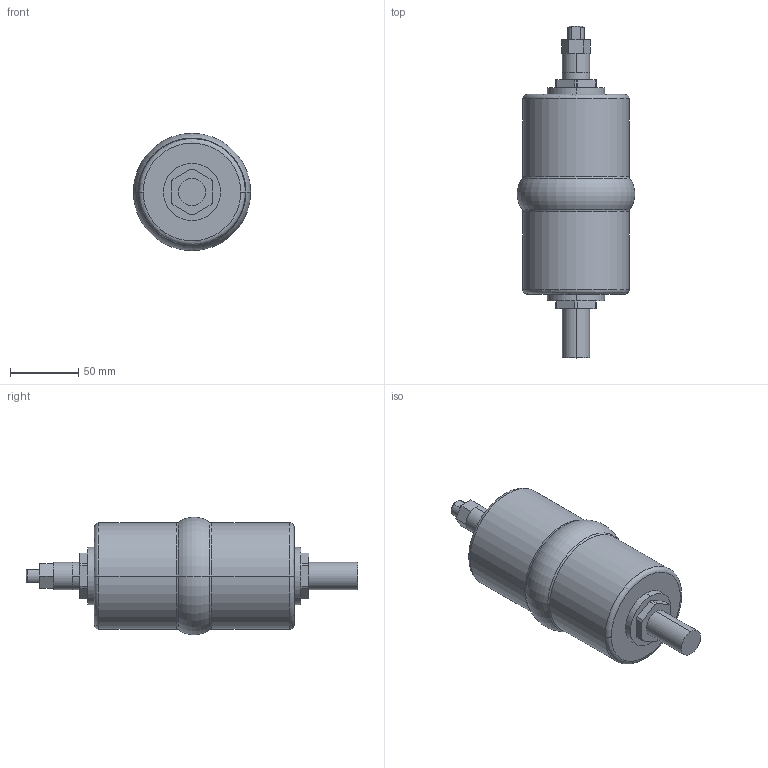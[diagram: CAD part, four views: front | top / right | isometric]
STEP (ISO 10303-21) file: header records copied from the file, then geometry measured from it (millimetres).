
FILE_DESCRIPTION (( 'STEP AP214' ), '1' );
FILE_NAME ('SW4-74mm.STEP', '2017-11-03T20:22:55', ( '' ), ( '' ), 'SwSTEP 2.0', 'SolidWorks 2014', '' );
FILE_SCHEMA (( 'AUTOMOTIVE_DESIGN' ));
Length unit declared in the file: millimetre
Products named in the file (1): SW4-74mm
Bounding box: 85.85 x 243.05 x 85.85 mm (x, y, z)
Volume: 766566.5 mm3; surface area: 56816.1 mm2
Topology: 4 solids, 4 shells, 93 faces, 217 edges, 134 vertices
Faces by surface type: cylinder 38, plane 34, cone 11, torus 10
Entity records: 4016 total; most frequent: CARTESIAN_POINT 1799, DIRECTION 483, ORIENTED_EDGE 418, EDGE_CURVE 209, AXIS2_PLACEMENT_3D 188, VERTEX_POINT 134, LINE 107, VECTOR 107
